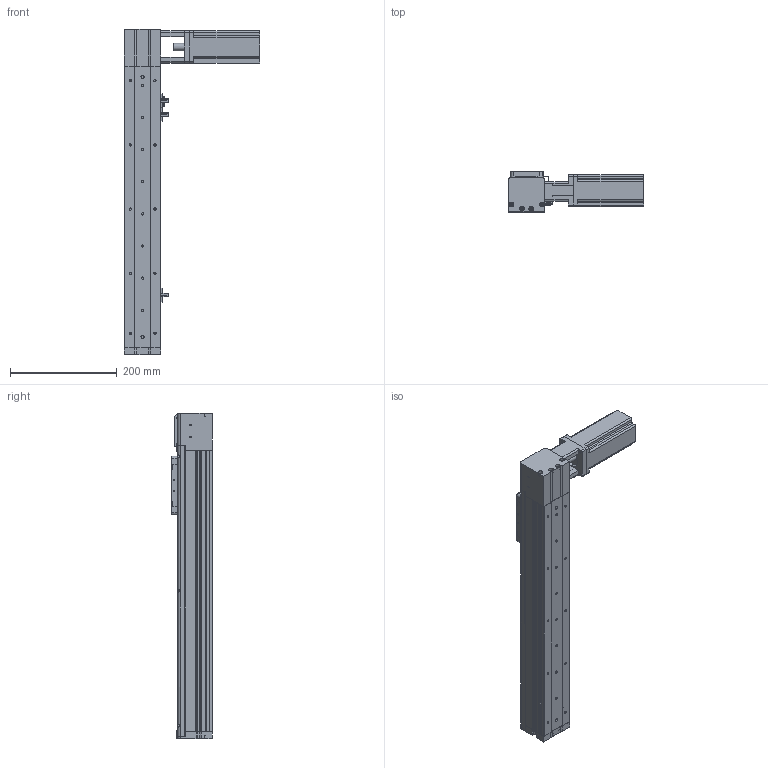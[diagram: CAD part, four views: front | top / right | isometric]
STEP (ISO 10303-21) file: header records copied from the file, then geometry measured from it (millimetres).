
FILE_DESCRIPTION (( 'STEP AP214' ), '1' );
FILE_NAME ('KSD68BS-S350-MRT-CR.STEP', '2019-11-07T06:10:37', ( '微软用户' ), ( '微软中国' ), 'SwSTEP 2.0', 'SolidWorks 2014', '' );
FILE_SCHEMA (( 'AUTOMOTIVE_DESIGN' ));
Length unit declared in the file: millimetre
Products named in the file (13): 68遵裔啣揤啣1; 68宽单导轨全封闭丝杆传动安装板1防护罩; KSD68BS 350行程侧板全封闭; 68宽单导轨全封闭同步带端板; 68单导轨全封闭同步带电机座左; 68单导轨全封闭同步带安装板; 感应片68宽全封闭; U倰嫖萇EEㄜSX672; 台达ECMA－C20604AS伺服电机（400W); KSD68BS 350行程底板全封闭; KSD68BS-S350-MRT-CR; 100遵鎮湛假蚾啣1; KSD68BS 350行程盖板全封闭
Assembly tree (16 placements, depth 2):
  KSD68BS-S350-MRT-CR
    KSD68BS 350行程底板全封闭
    台达ECMA－C20604AS伺服电机（400W)
    U倰嫖萇EEㄜSX672  x3
    感应片68宽全封闭
    68单导轨全封闭同步带安装板
    68单导轨全封闭同步带电机座左
    68宽单导轨全封闭同步带端板
    KSD68BS 350行程侧板全封闭  x2
    68宽单导轨全封闭丝杆传动安装板1防护罩
    68遵裔啣揤啣1  x2
    KSD68BS 350行程盖板全封闭
    100遵鎮湛假蚾啣1
Bounding box: 252.7 x 77 x 608.1 mm (x, y, z)
Volume: 1609830.5 mm3; surface area: 520151.1 mm2
Topology: 17 solids, 17 shells, 1313 faces, 3694 edges, 2374 vertices
Faces by surface type: plane 594, cylinder 587, cone 132
Entity records: 40610 total; most frequent: CARTESIAN_POINT 6815, DIRECTION 6081, ORIENTED_EDGE 5832, EDGE_CURVE 2916, AXIS2_PLACEMENT_3D 2164, VERTEX_POINT 1912, VECTOR 1753, LINE 1753
